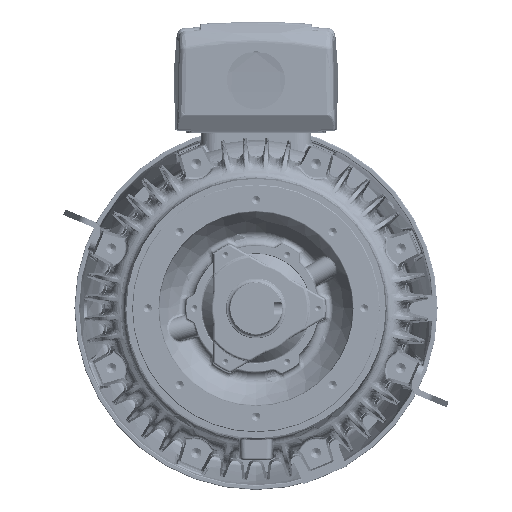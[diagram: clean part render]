
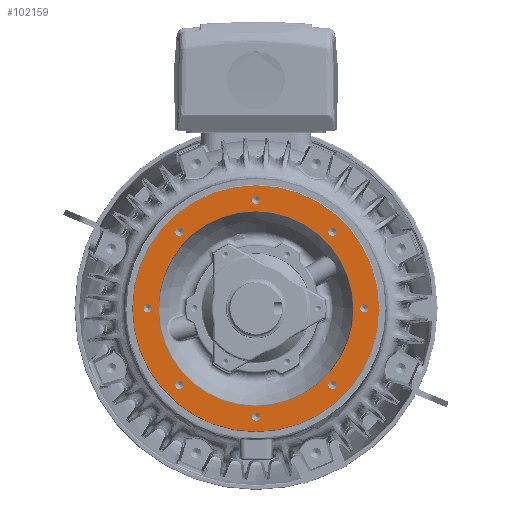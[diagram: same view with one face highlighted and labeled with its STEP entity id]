
A CAD part, front view. The second image highlights one B-rep face of the part: STEP entity #102159.
In plain terms, the highlighted planar face has unit normal (0, -1, 0) as drawn and (0, 0, -1) by its records, which use the part's own axes.
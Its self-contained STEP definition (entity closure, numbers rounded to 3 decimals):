
#70707=CARTESIAN_POINT('',(4.95,4.95,-7.628));
#70708=DIRECTION('',(0.,0.,-1.));
#70709=DIRECTION('',(1.,0.,0.));
#70710=AXIS2_PLACEMENT_3D('',#70707,#70708,#70709);
#70712=CARTESIAN_POINT('',(4.95,4.95,-7.628));
#70713=DIRECTION('',(0.,0.,-1.));
#70714=DIRECTION('',(-1.,0.,0.));
#70715=AXIS2_PLACEMENT_3D('',#70712,#70713,#70714);
#70717=CARTESIAN_POINT('',(7.,0.,-7.628));
#70718=DIRECTION('',(0.,0.,-1.));
#70719=DIRECTION('',(1.,0.,0.));
#70720=AXIS2_PLACEMENT_3D('',#70717,#70718,#70719);
#70722=CARTESIAN_POINT('',(7.,0.,-7.628));
#70723=DIRECTION('',(0.,0.,-1.));
#70724=DIRECTION('',(-1.,0.,0.));
#70725=AXIS2_PLACEMENT_3D('',#70722,#70723,#70724);
#70727=CARTESIAN_POINT('',(4.95,-4.95,-7.628));
#70728=DIRECTION('',(0.,0.,-1.));
#70729=DIRECTION('',(1.,0.,0.));
#70730=AXIS2_PLACEMENT_3D('',#70727,#70728,#70729);
#70732=CARTESIAN_POINT('',(4.95,-4.95,-7.628));
#70733=DIRECTION('',(0.,0.,-1.));
#70734=DIRECTION('',(-1.,0.,0.));
#70735=AXIS2_PLACEMENT_3D('',#70732,#70733,#70734);
#70737=CARTESIAN_POINT('',(0.,-7.,-7.628));
#70738=DIRECTION('',(0.,0.,-1.));
#70739=DIRECTION('',(1.,0.,0.));
#70740=AXIS2_PLACEMENT_3D('',#70737,#70738,#70739);
#70742=CARTESIAN_POINT('',(0.,-7.,-7.628));
#70743=DIRECTION('',(0.,0.,-1.));
#70744=DIRECTION('',(-1.,0.,0.));
#70745=AXIS2_PLACEMENT_3D('',#70742,#70743,#70744);
#70747=CARTESIAN_POINT('',(-4.95,-4.95,-7.628));
#70748=DIRECTION('',(0.,0.,-1.));
#70749=DIRECTION('',(1.,0.,0.));
#70750=AXIS2_PLACEMENT_3D('',#70747,#70748,#70749);
#70752=CARTESIAN_POINT('',(-4.95,-4.95,-7.628));
#70753=DIRECTION('',(0.,0.,-1.));
#70754=DIRECTION('',(-1.,0.,0.));
#70755=AXIS2_PLACEMENT_3D('',#70752,#70753,#70754);
#70757=CARTESIAN_POINT('',(-7.,0.,-7.628));
#70758=DIRECTION('',(0.,0.,-1.));
#70759=DIRECTION('',(1.,0.,0.));
#70760=AXIS2_PLACEMENT_3D('',#70757,#70758,#70759);
#70762=CARTESIAN_POINT('',(-7.,0.,-7.628));
#70763=DIRECTION('',(0.,0.,-1.));
#70764=DIRECTION('',(-1.,0.,0.));
#70765=AXIS2_PLACEMENT_3D('',#70762,#70763,#70764);
#70767=CARTESIAN_POINT('',(-4.95,4.95,-7.628));
#70768=DIRECTION('',(0.,0.,-1.));
#70769=DIRECTION('',(1.,0.,0.));
#70770=AXIS2_PLACEMENT_3D('',#70767,#70768,#70769);
#70772=CARTESIAN_POINT('',(-4.95,4.95,-7.628));
#70773=DIRECTION('',(0.,0.,-1.));
#70774=DIRECTION('',(-1.,0.,0.));
#70775=AXIS2_PLACEMENT_3D('',#70772,#70773,#70774);
#70777=CARTESIAN_POINT('',(0.,0.,-7.628));
#70778=DIRECTION('',(0.,0.,1.));
#70779=DIRECTION('',(0.,1.,0.));
#70780=AXIS2_PLACEMENT_3D('',#70777,#70778,#70779);
#70782=CARTESIAN_POINT('',(0.,0.,-7.628));
#70783=DIRECTION('',(0.,0.,-1.));
#70784=DIRECTION('',(0.,1.,0.));
#70785=AXIS2_PLACEMENT_3D('',#70782,#70783,#70784);
#70787=CARTESIAN_POINT('',(0.,0.,-7.628));
#70788=DIRECTION('',(0.,0.,1.));
#70789=DIRECTION('',(0.,-1.,0.));
#70790=AXIS2_PLACEMENT_3D('',#70787,#70788,#70789);
#70792=CARTESIAN_POINT('',(0.,0.,-7.628));
#70793=DIRECTION('',(0.,0.,1.));
#70794=DIRECTION('',(0.,1.,0.));
#70795=AXIS2_PLACEMENT_3D('',#70792,#70793,#70794);
#70797=CARTESIAN_POINT('',(0.,7.,-7.628));
#70798=DIRECTION('',(0.,0.,-1.));
#70799=DIRECTION('',(1.,0.,0.));
#70800=AXIS2_PLACEMENT_3D('',#70797,#70798,#70799);
#70802=CARTESIAN_POINT('',(0.,7.,-7.628));
#70803=DIRECTION('',(0.,0.,-1.));
#70804=DIRECTION('',(-1.,0.,0.));
#70805=AXIS2_PLACEMENT_3D('',#70802,#70803,#70804);
#101169=CARTESIAN_POINT('',(0.,-6.312,-7.628));
#101170=CARTESIAN_POINT('',(0.,6.312,-7.628));
#101171=VERTEX_POINT('',#101169);
#101172=VERTEX_POINT('',#101170);
#101175=CARTESIAN_POINT('',(0.,7.969,-7.628));
#101176=VERTEX_POINT('',#101175);
#101185=CARTESIAN_POINT('',(0.,-7.969,-7.628));
#101186=VERTEX_POINT('',#101185);
#101199=CARTESIAN_POINT('',(0.266,7.,-7.628));
#101200=CARTESIAN_POINT('',(-0.266,7.,-7.628));
#101201=VERTEX_POINT('',#101199);
#101202=VERTEX_POINT('',#101200);
#101209=CARTESIAN_POINT('',(-4.684,4.95,-7.628));
#101210=CARTESIAN_POINT('',(-5.215,4.95,-7.628));
#101211=VERTEX_POINT('',#101209);
#101212=VERTEX_POINT('',#101210);
#101219=CARTESIAN_POINT('',(-6.735,0.,-7.628));
#101220=CARTESIAN_POINT('',(-7.266,0.,-7.628));
#101221=VERTEX_POINT('',#101219);
#101222=VERTEX_POINT('',#101220);
#101229=CARTESIAN_POINT('',(-4.684,-4.95,-7.628));
#101230=CARTESIAN_POINT('',(-5.215,-4.95,-7.628));
#101231=VERTEX_POINT('',#101229);
#101232=VERTEX_POINT('',#101230);
#101239=CARTESIAN_POINT('',(0.266,-7.,-7.628));
#101240=CARTESIAN_POINT('',(-0.266,-7.,-7.628));
#101241=VERTEX_POINT('',#101239);
#101242=VERTEX_POINT('',#101240);
#101249=CARTESIAN_POINT('',(5.215,-4.95,-7.628));
#101250=CARTESIAN_POINT('',(4.684,-4.95,-7.628));
#101251=VERTEX_POINT('',#101249);
#101252=VERTEX_POINT('',#101250);
#101259=CARTESIAN_POINT('',(7.266,0.,-7.628));
#101260=CARTESIAN_POINT('',(6.735,0.,-7.628));
#101261=VERTEX_POINT('',#101259);
#101262=VERTEX_POINT('',#101260);
#101269=CARTESIAN_POINT('',(5.215,4.95,-7.628));
#101270=CARTESIAN_POINT('',(4.684,4.95,-7.628));
#101271=VERTEX_POINT('',#101269);
#101272=VERTEX_POINT('',#101270);
#102096=CARTESIAN_POINT('',(0.,0.,-7.628));
#102097=DIRECTION('',(0.,0.,1.));
#102098=DIRECTION('',(0.,1.,0.));
#102099=AXIS2_PLACEMENT_3D('',#102096,#102097,#102098);
#102100=PLANE('',#102099);
#102101=ORIENTED_EDGE('',*,*,#102091,.T.);
#102102=ORIENTED_EDGE('',*,*,#102075,.F.);
#102103=EDGE_LOOP('',(#102101,#102102));
#102104=FACE_OUTER_BOUND('',#102103,.F.);
#102106=ORIENTED_EDGE('',*,*,#102105,.T.);
#102108=ORIENTED_EDGE('',*,*,#102107,.T.);
#102109=EDGE_LOOP('',(#102106,#102108));
#102110=FACE_BOUND('',#102109,.F.);
#102112=ORIENTED_EDGE('',*,*,#102111,.T.);
#102114=ORIENTED_EDGE('',*,*,#102113,.T.);
#102115=EDGE_LOOP('',(#102112,#102114));
#102116=FACE_BOUND('',#102115,.F.);
#102118=ORIENTED_EDGE('',*,*,#102117,.T.);
#102120=ORIENTED_EDGE('',*,*,#102119,.T.);
#102121=EDGE_LOOP('',(#102118,#102120));
#102122=FACE_BOUND('',#102121,.F.);
#102124=ORIENTED_EDGE('',*,*,#102123,.T.);
#102126=ORIENTED_EDGE('',*,*,#102125,.T.);
#102127=EDGE_LOOP('',(#102124,#102126));
#102128=FACE_BOUND('',#102127,.F.);
#102130=ORIENTED_EDGE('',*,*,#102129,.T.);
#102132=ORIENTED_EDGE('',*,*,#102131,.T.);
#102133=EDGE_LOOP('',(#102130,#102132));
#102134=FACE_BOUND('',#102133,.F.);
#102136=ORIENTED_EDGE('',*,*,#102135,.T.);
#102138=ORIENTED_EDGE('',*,*,#102137,.T.);
#102139=EDGE_LOOP('',(#102136,#102138));
#102140=FACE_BOUND('',#102139,.F.);
#102142=ORIENTED_EDGE('',*,*,#102141,.T.);
#102144=ORIENTED_EDGE('',*,*,#102143,.T.);
#102145=EDGE_LOOP('',(#102142,#102144));
#102146=FACE_BOUND('',#102145,.F.);
#102148=ORIENTED_EDGE('',*,*,#102147,.F.);
#102150=ORIENTED_EDGE('',*,*,#102149,.F.);
#102151=EDGE_LOOP('',(#102148,#102150));
#102152=FACE_BOUND('',#102151,.F.);
#102154=ORIENTED_EDGE('',*,*,#102153,.T.);
#102156=ORIENTED_EDGE('',*,*,#102155,.T.);
#102157=EDGE_LOOP('',(#102154,#102156));
#102158=FACE_BOUND('',#102157,.F.);
#102159=ADVANCED_FACE('',(#102104,#102110,#102116,#102122,#102128,#102134,
#102140,#102146,#102152,#102158),#102100,.F.);
#70711=CIRCLE('',#70710,0.266);
#70716=CIRCLE('',#70715,0.266);
#70721=CIRCLE('',#70720,0.266);
#70726=CIRCLE('',#70725,0.266);
#70731=CIRCLE('',#70730,0.266);
#70736=CIRCLE('',#70735,0.266);
#70741=CIRCLE('',#70740,0.266);
#70746=CIRCLE('',#70745,0.266);
#70751=CIRCLE('',#70750,0.266);
#70756=CIRCLE('',#70755,0.266);
#70761=CIRCLE('',#70760,0.266);
#70766=CIRCLE('',#70765,0.266);
#70771=CIRCLE('',#70770,0.266);
#70776=CIRCLE('',#70775,0.266);
#70781=CIRCLE('',#70780,7.969);
#70786=CIRCLE('',#70785,7.969);
#70791=CIRCLE('',#70790,6.312);
#70796=CIRCLE('',#70795,6.312);
#70801=CIRCLE('',#70800,0.266);
#70806=CIRCLE('',#70805,0.266);
#102075=EDGE_CURVE('',#101176,#101186,#70786,.T.);
#102091=EDGE_CURVE('',#101176,#101186,#70781,.T.);
#102105=EDGE_CURVE('',#101261,#101262,#70721,.T.);
#102107=EDGE_CURVE('',#101262,#101261,#70726,.T.);
#102111=EDGE_CURVE('',#101251,#101252,#70731,.T.);
#102113=EDGE_CURVE('',#101252,#101251,#70736,.T.);
#102117=EDGE_CURVE('',#101241,#101242,#70741,.T.);
#102119=EDGE_CURVE('',#101242,#101241,#70746,.T.);
#102123=EDGE_CURVE('',#101231,#101232,#70751,.T.);
#102125=EDGE_CURVE('',#101232,#101231,#70756,.T.);
#102129=EDGE_CURVE('',#101221,#101222,#70761,.T.);
#102131=EDGE_CURVE('',#101222,#101221,#70766,.T.);
#102135=EDGE_CURVE('',#101211,#101212,#70771,.T.);
#102137=EDGE_CURVE('',#101212,#101211,#70776,.T.);
#102141=EDGE_CURVE('',#101271,#101272,#70711,.T.);
#102143=EDGE_CURVE('',#101272,#101271,#70716,.T.);
#102147=EDGE_CURVE('',#101171,#101172,#70791,.T.);
#102149=EDGE_CURVE('',#101172,#101171,#70796,.T.);
#102153=EDGE_CURVE('',#101201,#101202,#70801,.T.);
#102155=EDGE_CURVE('',#101202,#101201,#70806,.T.);
